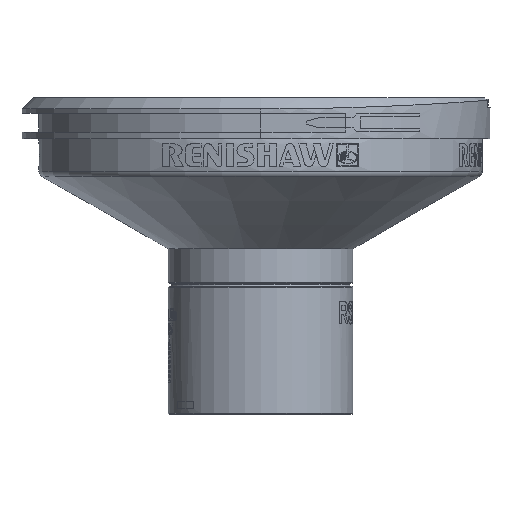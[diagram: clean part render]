
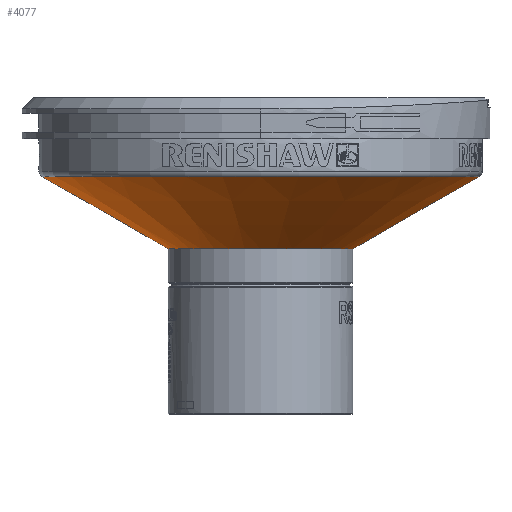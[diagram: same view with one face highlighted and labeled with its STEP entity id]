
A CAD part, left-side view. The second image highlights one B-rep face of the part: STEP entity #4077.
In plain terms, the highlighted conical face has half-angle 60.255 degrees and reference radius 30 mm.
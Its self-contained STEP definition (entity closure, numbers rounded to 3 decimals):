
#2028=CONICAL_SURFACE('',#10493,30.,60.255);
#4077=ADVANCED_FACE('',(#4242,#4243),#2028,.T.);
#4242=FACE_BOUND('',#4564,.T.);
#4243=FACE_BOUND('',#4565,.T.);
#4564=EDGE_LOOP('',(#6363));
#4565=EDGE_LOOP('',(#6364));
#6363=ORIENTED_EDGE('',*,*,#9308,.T.);
#6364=ORIENTED_EDGE('',*,*,#9307,.F.);
#8027=VERTEX_POINT('',#15472);
#8028=VERTEX_POINT('',#15475);
#9307=EDGE_CURVE('',#8027,#8027,#10020,.T.);
#9308=EDGE_CURVE('',#8028,#8028,#10021,.T.);
#10020=CIRCLE('',#10489,12.5);
#10021=CIRCLE('',#10491,29.547);
#10489=AXIS2_PLACEMENT_3D('',#15471,#11728,#11729);
#10491=AXIS2_PLACEMENT_3D('',#15474,#11732,#11733);
#10493=AXIS2_PLACEMENT_3D('',#15477,#11736,#11737);
#11728=DIRECTION('',(0.,0.,-1.));
#11729=DIRECTION('',(1.,0.,0.));
#11732=DIRECTION('',(0.,0.,-1.));
#11733=DIRECTION('',(-1.,0.,0.));
#11736=DIRECTION('',(0.,0.,1.));
#11737=DIRECTION('',(0.,-1.,0.));
#15471=CARTESIAN_POINT('',(0.,0.,
-21.3));
#15472=CARTESIAN_POINT('',(12.5,0.,-21.3));
#15474=CARTESIAN_POINT('',(0.,0.,
-11.559));
#15475=CARTESIAN_POINT('',(-29.547,0.,-11.559));
#15477=CARTESIAN_POINT('',(0.,0.,
-11.3));
